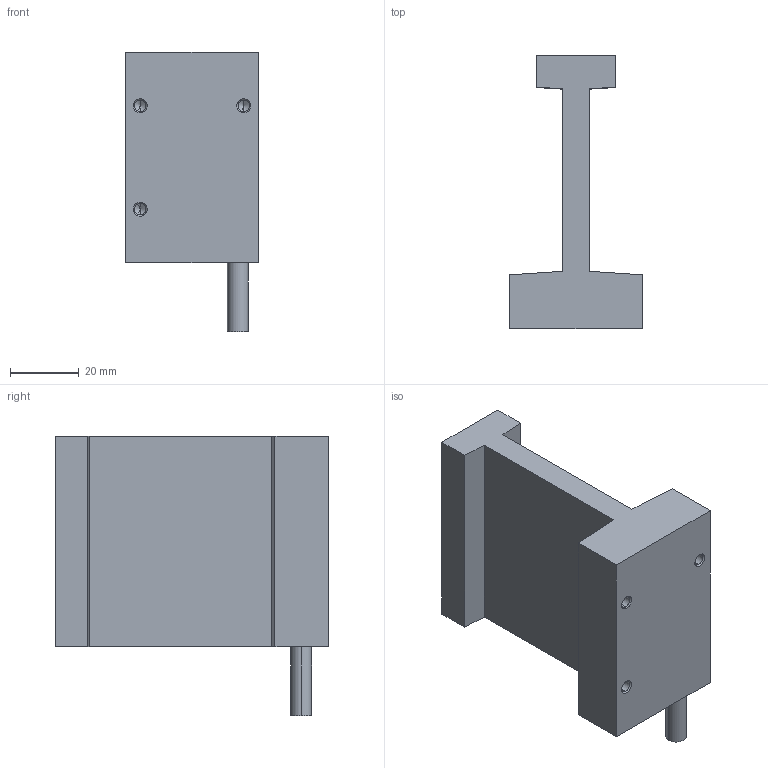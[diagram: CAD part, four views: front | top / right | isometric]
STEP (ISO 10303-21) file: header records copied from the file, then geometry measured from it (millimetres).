
FILE_DESCRIPTION (( 'STEP AP214' ), '1' );
FILE_NAME ('JKB41.STEP', '2025-09-05T12:48:45', ( '' ), ( '' ), 'SwSTEP 2.0', 'SolidWorks 2016', '' );
FILE_SCHEMA (( 'AUTOMOTIVE_DESIGN' ));
Length unit declared in the file: millimetre
Products named in the file (1): JKB41
Bounding box: 38.5 x 79.3 x 81 mm (x, y, z)
Volume: 76267.9 mm3; surface area: 19302.4 mm2
Topology: 1 solids, 1 shells, 35 faces, 84 edges, 49 vertices
Faces by surface type: plane 15, cone 12, cylinder 8
Entity records: 1062 total; most frequent: DIRECTION 172, CARTESIAN_POINT 163, ORIENTED_EDGE 156, EDGE_CURVE 78, AXIS2_PLACEMENT_3D 58, VECTOR 56, LINE 56, VERTEX_POINT 49
